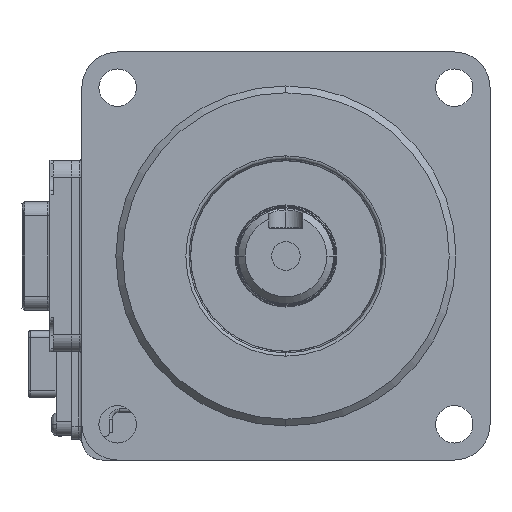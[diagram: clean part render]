
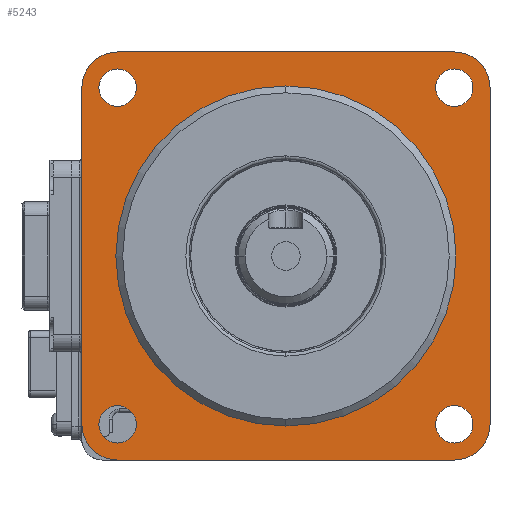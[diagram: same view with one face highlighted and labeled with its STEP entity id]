
A CAD part, left-side view. The second image highlights one B-rep face of the part: STEP entity #5243.
In plain terms, the highlighted planar face has unit normal (-1, 0, 0).
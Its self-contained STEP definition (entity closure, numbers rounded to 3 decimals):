
#2664 = VERTEX_POINT('',#2665);
#2665 = CARTESIAN_POINT('',(30.,24.749,-21.999));
#2671 = EDGE_CURVE('',#2672,#2664,#2674,.T.);
#2672 = VERTEX_POINT('',#2673);
#2673 = CARTESIAN_POINT('',(30.,24.749,-27.499));
#2674 = CIRCLE('',#2675,2.75);
#2675 = AXIS2_PLACEMENT_3D('',#2676,#2677,#2678);
#2676 = CARTESIAN_POINT('',(30.,24.749,-24.749));
#2677 = DIRECTION('',(-1.,0.,0.));
#2678 = DIRECTION('',(0.,-1.,0.));
#2706 = VERTEX_POINT('',#2707);
#2707 = CARTESIAN_POINT('',(30.,-24.749,27.499));
#2713 = EDGE_CURVE('',#2714,#2706,#2716,.T.);
#2714 = VERTEX_POINT('',#2715);
#2715 = CARTESIAN_POINT('',(30.,-24.749,21.999));
#2716 = CIRCLE('',#2717,2.75);
#2717 = AXIS2_PLACEMENT_3D('',#2718,#2719,#2720);
#2718 = CARTESIAN_POINT('',(30.,-24.749,24.749));
#2719 = DIRECTION('',(-1.,0.,0.));
#2720 = DIRECTION('',(0.,1.,0.));
#2748 = VERTEX_POINT('',#2749);
#2749 = CARTESIAN_POINT('',(30.,-24.749,-21.999));
#2755 = EDGE_CURVE('',#2756,#2748,#2758,.T.);
#2756 = VERTEX_POINT('',#2757);
#2757 = CARTESIAN_POINT('',(30.,-24.749,-27.499));
#2758 = CIRCLE('',#2759,2.75);
#2759 = AXIS2_PLACEMENT_3D('',#2760,#2761,#2762);
#2760 = CARTESIAN_POINT('',(30.,-24.749,-24.749));
#2761 = DIRECTION('',(-1.,0.,0.));
#2762 = DIRECTION('',(0.,0.,1.));
#2790 = VERTEX_POINT('',#2791);
#2791 = CARTESIAN_POINT('',(30.,24.749,27.499));
#2797 = EDGE_CURVE('',#2798,#2790,#2800,.T.);
#2798 = VERTEX_POINT('',#2799);
#2799 = CARTESIAN_POINT('',(30.,24.749,21.999));
#2800 = CIRCLE('',#2801,2.75);
#2801 = AXIS2_PLACEMENT_3D('',#2802,#2803,#2804);
#2802 = CARTESIAN_POINT('',(30.,24.749,24.749));
#2803 = DIRECTION('',(-1.,0.,0.));
#2804 = DIRECTION('',(0.,0.,-1.));
#2829 = EDGE_CURVE('',#2830,#2832,#2834,.T.);
#2830 = VERTEX_POINT('',#2831);
#2831 = CARTESIAN_POINT('',(30.,0.,25.));
#2832 = VERTEX_POINT('',#2833);
#2833 = CARTESIAN_POINT('',(30.,0.,-25.));
#2834 = CIRCLE('',#2835,25.);
#2835 = AXIS2_PLACEMENT_3D('',#2836,#2837,#2838);
#2836 = CARTESIAN_POINT('',(30.,0.,0.));
#2837 = DIRECTION('',(-1.,0.,0.));
#2838 = DIRECTION('',(0.,0.,1.));
#3479 = EDGE_CURVE('',#2832,#2830,#3480,.T.);
#3480 = CIRCLE('',#3481,25.);
#3481 = AXIS2_PLACEMENT_3D('',#3482,#3483,#3484);
#3482 = CARTESIAN_POINT('',(30.,0.,0.));
#3483 = DIRECTION('',(-1.,0.,0.));
#3484 = DIRECTION('',(0.,0.,1.));
#3543 = VERTEX_POINT('',#3544);
#3544 = CARTESIAN_POINT('',(30.,24.75,30.));
#3560 = VERTEX_POINT('',#3561);
#3561 = CARTESIAN_POINT('',(30.,30.,24.75));
#3567 = EDGE_CURVE('',#3543,#3560,#3568,.T.);
#3568 = CIRCLE('',#3569,5.25);
#3569 = AXIS2_PLACEMENT_3D('',#3570,#3571,#3572);
#3570 = CARTESIAN_POINT('',(30.,24.75,24.75));
#3571 = DIRECTION('',(-1.,0.,0.));
#3572 = DIRECTION('',(0.,0.,1.));
#3895 = EDGE_CURVE('',#2790,#2798,#3896,.T.);
#3896 = CIRCLE('',#3897,2.75);
#3897 = AXIS2_PLACEMENT_3D('',#3898,#3899,#3900);
#3898 = CARTESIAN_POINT('',(30.,24.749,24.749));
#3899 = DIRECTION('',(-1.,0.,0.));
#3900 = DIRECTION('',(0.,0.,-1.));
#4238 = VERTEX_POINT('',#4239);
#4239 = CARTESIAN_POINT('',(30.,-30.,24.75));
#4247 = VERTEX_POINT('',#4248);
#4248 = CARTESIAN_POINT('',(30.,-24.75,30.));
#4254 = EDGE_CURVE('',#4238,#4247,#4255,.T.);
#4255 = CIRCLE('',#4256,5.25);
#4256 = AXIS2_PLACEMENT_3D('',#4257,#4258,#4259);
#4257 = CARTESIAN_POINT('',(30.,-24.75,24.75));
#4258 = DIRECTION('',(-1.,0.,0.));
#4259 = DIRECTION('',(0.,0.,1.));
#4288 = EDGE_CURVE('',#4247,#3543,#4289,.T.);
#4289 = LINE('',#4290,#4291);
#4290 = CARTESIAN_POINT('',(30.,30.,30.));
#4291 = VECTOR('',#4292,1.);
#4292 = DIRECTION('',(0.,1.,0.));
#4883 = EDGE_CURVE('',#2748,#2756,#4884,.T.);
#4884 = CIRCLE('',#4885,2.75);
#4885 = AXIS2_PLACEMENT_3D('',#4886,#4887,#4888);
#4886 = CARTESIAN_POINT('',(30.,-24.749,-24.749));
#4887 = DIRECTION('',(-1.,0.,0.));
#4888 = DIRECTION('',(0.,0.,1.));
#4975 = VERTEX_POINT('',#4976);
#4976 = CARTESIAN_POINT('',(30.,-24.75,-30.));
#4990 = VERTEX_POINT('',#4991);
#4991 = CARTESIAN_POINT('',(30.,-30.,-24.75));
#4997 = EDGE_CURVE('',#4975,#4990,#4998,.T.);
#4998 = CIRCLE('',#4999,5.25);
#4999 = AXIS2_PLACEMENT_3D('',#5000,#5001,#5002);
#5000 = CARTESIAN_POINT('',(30.,-24.75,-24.75));
#5001 = DIRECTION('',(-1.,0.,0.));
#5002 = DIRECTION('',(0.,0.,1.));
#5029 = EDGE_CURVE('',#4990,#4238,#5030,.T.);
#5030 = LINE('',#5031,#5032);
#5031 = CARTESIAN_POINT('',(30.,-30.,30.));
#5032 = VECTOR('',#5033,1.);
#5033 = DIRECTION('',(0.,0.,1.));
#5229 = EDGE_CURVE('',#2706,#2714,#5230,.T.);
#5230 = CIRCLE('',#5231,2.75);
#5231 = AXIS2_PLACEMENT_3D('',#5232,#5233,#5234);
#5232 = CARTESIAN_POINT('',(30.,-24.749,24.749));
#5233 = DIRECTION('',(-1.,0.,0.));
#5234 = DIRECTION('',(0.,1.,0.));
#5243 = ADVANCED_FACE('',(#5244,#5248,#5252,#5262,#5266,#5270),#5300,.T.
  );
#5244 = FACE_BOUND('',#5245,.T.);
#5245 = EDGE_LOOP('',(#5246,#5247));
#5246 = ORIENTED_EDGE('',*,*,#5229,.F.);
#5247 = ORIENTED_EDGE('',*,*,#2713,.F.);
#5248 = FACE_BOUND('',#5249,.T.);
#5249 = EDGE_LOOP('',(#5250,#5251));
#5250 = ORIENTED_EDGE('',*,*,#3895,.F.);
#5251 = ORIENTED_EDGE('',*,*,#2797,.F.);
#5252 = FACE_BOUND('',#5253,.T.);
#5253 = EDGE_LOOP('',(#5254,#5261));
#5254 = ORIENTED_EDGE('',*,*,#5255,.F.);
#5255 = EDGE_CURVE('',#2664,#2672,#5256,.T.);
#5256 = CIRCLE('',#5257,2.75);
#5257 = AXIS2_PLACEMENT_3D('',#5258,#5259,#5260);
#5258 = CARTESIAN_POINT('',(30.,24.749,-24.749));
#5259 = DIRECTION('',(-1.,0.,0.));
#5260 = DIRECTION('',(0.,-1.,0.));
#5261 = ORIENTED_EDGE('',*,*,#2671,.F.);
#5262 = FACE_BOUND('',#5263,.T.);
#5263 = EDGE_LOOP('',(#5264,#5265));
#5264 = ORIENTED_EDGE('',*,*,#4883,.F.);
#5265 = ORIENTED_EDGE('',*,*,#2755,.F.);
#5266 = FACE_BOUND('',#5267,.T.);
#5267 = EDGE_LOOP('',(#5268,#5269));
#5268 = ORIENTED_EDGE('',*,*,#2829,.F.);
#5269 = ORIENTED_EDGE('',*,*,#3479,.F.);
#5270 = FACE_BOUND('',#5271,.T.);
#5271 = EDGE_LOOP('',(#5272,#5280,#5289,#5295,#5296,#5297,#5298,#5299));
#5272 = ORIENTED_EDGE('',*,*,#5273,.T.);
#5273 = EDGE_CURVE('',#3560,#5274,#5276,.T.);
#5274 = VERTEX_POINT('',#5275);
#5275 = CARTESIAN_POINT('',(30.,30.,-24.75));
#5276 = LINE('',#5277,#5278);
#5277 = CARTESIAN_POINT('',(30.,30.,30.));
#5278 = VECTOR('',#5279,1.);
#5279 = DIRECTION('',(0.,0.,-1.));
#5280 = ORIENTED_EDGE('',*,*,#5281,.T.);
#5281 = EDGE_CURVE('',#5274,#5282,#5284,.T.);
#5282 = VERTEX_POINT('',#5283);
#5283 = CARTESIAN_POINT('',(30.,24.75,-30.));
#5284 = CIRCLE('',#5285,5.25);
#5285 = AXIS2_PLACEMENT_3D('',#5286,#5287,#5288);
#5286 = CARTESIAN_POINT('',(30.,24.75,-24.75));
#5287 = DIRECTION('',(-1.,0.,0.));
#5288 = DIRECTION('',(0.,0.,1.));
#5289 = ORIENTED_EDGE('',*,*,#5290,.T.);
#5290 = EDGE_CURVE('',#5282,#4975,#5291,.T.);
#5291 = LINE('',#5292,#5293);
#5292 = CARTESIAN_POINT('',(30.,30.,-30.));
#5293 = VECTOR('',#5294,1.);
#5294 = DIRECTION('',(0.,-1.,0.));
#5295 = ORIENTED_EDGE('',*,*,#4997,.T.);
#5296 = ORIENTED_EDGE('',*,*,#5029,.T.);
#5297 = ORIENTED_EDGE('',*,*,#4254,.T.);
#5298 = ORIENTED_EDGE('',*,*,#4288,.T.);
#5299 = ORIENTED_EDGE('',*,*,#3567,.T.);
#5300 = PLANE('',#5301);
#5301 = AXIS2_PLACEMENT_3D('',#5302,#5303,#5304);
#5302 = CARTESIAN_POINT('',(30.,0.,0.));
#5303 = DIRECTION('',(-1.,0.,0.));
#5304 = DIRECTION('',(0.,0.,1.));
